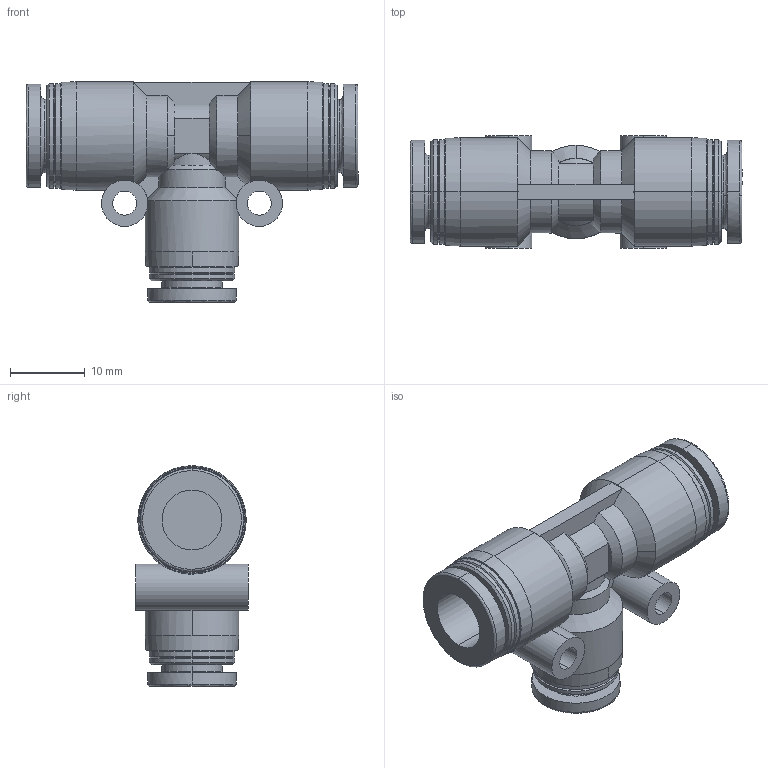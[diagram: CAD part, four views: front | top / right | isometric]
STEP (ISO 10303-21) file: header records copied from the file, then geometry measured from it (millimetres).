
FILE_DESCRIPTION (( 'STEP AP214' ), '1' );
FILE_NAME ('APEG8-6.STEP', '2019-12-05T08:30:46', ( '微软用户' ), ( '微软中国' ), 'SwSTEP 2.0', 'SolidWorks 2016', '' );
FILE_SCHEMA (( 'AUTOMOTIVE_DESIGN' ));
Length unit declared in the file: millimetre
Products named in the file (1): APEG8-6
Bounding box: 44.4 x 15.1 x 29.5 mm (x, y, z)
Volume: 6131.8 mm3; surface area: 5425.2 mm2
Topology: 1 solids, 1 shells, 155 faces, 382 edges, 241 vertices
Faces by surface type: cylinder 58, cone 53, plane 32, bspline 12
Entity records: 5649 total; most frequent: CARTESIAN_POINT 1978, DIRECTION 783, ORIENTED_EDGE 764, EDGE_CURVE 382, AXIS2_PLACEMENT_3D 334, VERTEX_POINT 241, CIRCLE 190, EDGE_LOOP 171
